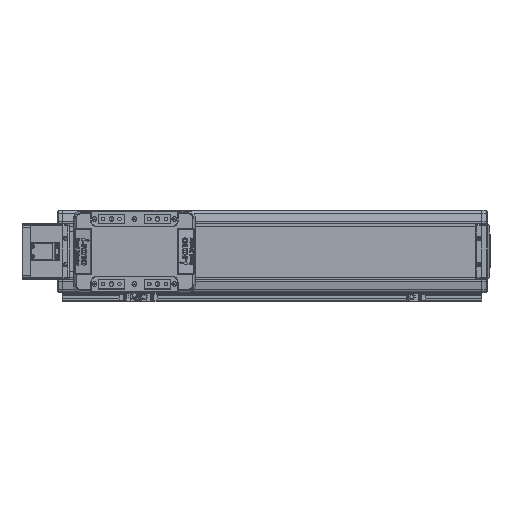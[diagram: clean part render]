
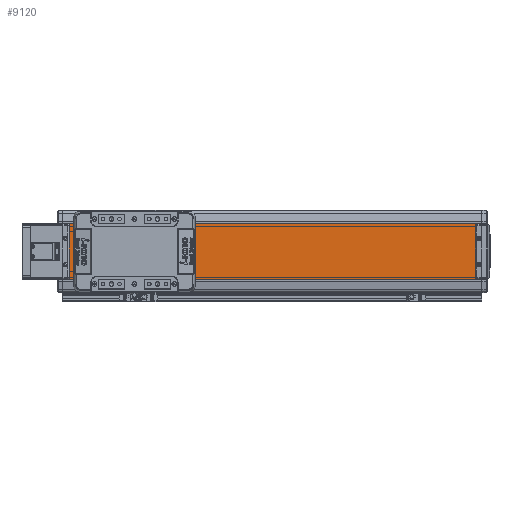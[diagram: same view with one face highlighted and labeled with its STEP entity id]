
A CAD part, top view. The second image highlights one B-rep face of the part: STEP entity #9120.
In plain terms, the highlighted planar face has unit normal (0, 0, 1).
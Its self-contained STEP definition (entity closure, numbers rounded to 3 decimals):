
#9120=ADVANCED_FACE('',(#19043),#19044,.F.);
#19043=FACE_OUTER_BOUND('',#31139,.T.);
#19044=PLANE('',#31140);
#31139=EDGE_LOOP('',(#57132,#57133,#57134,#57135));
#31140=AXIS2_PLACEMENT_3D('',#57136,#57137,#57138);
#57132=ORIENTED_EDGE('',*,*,#74487,.F.);
#57133=ORIENTED_EDGE('',*,*,#67798,.F.);
#57134=ORIENTED_EDGE('',*,*,#68925,.F.);
#57135=ORIENTED_EDGE('',*,*,#68806,.T.);
#57136=CARTESIAN_POINT('',(0.,0.,26.));
#57137=DIRECTION('',(0.,0.,-1.0));
#57138=DIRECTION('',(0.,1.0,0.));
#67798=EDGE_CURVE('',#81774,#81770,#81776,.T.);
#68806=EDGE_CURVE('',#83487,#83484,#83488,.T.);
#68925=EDGE_CURVE('',#83487,#81774,#83687,.T.);
#74487=EDGE_CURVE('',#81770,#83484,#91751,.T.);
#81770=VERTEX_POINT('',#100929);
#81774=VERTEX_POINT('',#100935);
#81776=LINE('',#100938,#100939);
#83484=VERTEX_POINT('',#103788);
#83487=VERTEX_POINT('',#103792);
#83488=LINE('',#103793,#103794);
#83687=LINE('',#104062,#104063);
#91751=LINE('',#115232,#115233);
#100929=CARTESIAN_POINT('',(760.0,50.,26.));
#100935=CARTESIAN_POINT('',(0.,50.,26.));
#100938=CARTESIAN_POINT('',(0.,50.,26.));
#100939=VECTOR('',#123326,10.0);
#103788=CARTESIAN_POINT('',(760.0,-50.,26.));
#103792=CARTESIAN_POINT('',(0.,-50.,26.));
#103793=CARTESIAN_POINT('',(0.,-50.,26.));
#103794=VECTOR('',#124716,10.0);
#104062=CARTESIAN_POINT('',(0.,-50.,26.));
#104063=VECTOR('',#124883,10.0);
#115232=CARTESIAN_POINT('',(760.0,-50.,26.));
#115233=VECTOR('',#132584,10.0);
#123326=DIRECTION('',(1.0,0.,0.));
#124716=DIRECTION('',(1.0,0.,0.));
#124883=DIRECTION('',(0.,1.0,0.));
#132584=DIRECTION('',(0.,-1.0,0.));
